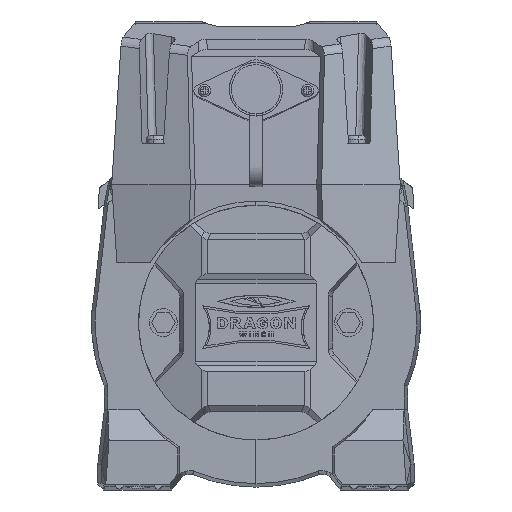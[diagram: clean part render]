
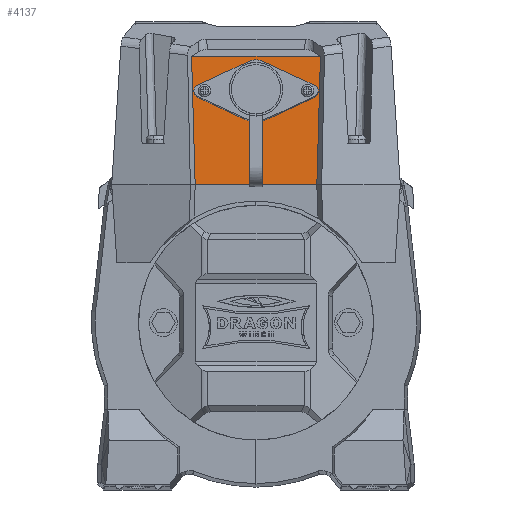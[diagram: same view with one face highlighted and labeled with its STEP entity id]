
A CAD part, left-side view. The second image highlights one B-rep face of the part: STEP entity #4137.
In plain terms, the highlighted free-form (B-spline) face has degree [1, 1] with [2, 2] control points.
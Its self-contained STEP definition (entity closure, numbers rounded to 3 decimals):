
#284=B_SPLINE_SURFACE_WITH_KNOTS('',1,1,((#49377,#49378),(#49379,#49380)),
 .UNSPECIFIED.,.F.,.F.,.F.,(2,2),(2,2),(0.,79.064),(92.874,
163.748),.UNSPECIFIED.);
#1614=B_SPLINE_CURVE_WITH_KNOTS('',1,(#52014,#52015),.UNSPECIFIED.,.F.,
 .F.,(2,2),(-157.867,-98.755),.UNSPECIFIED.);
#1623=B_SPLINE_CURVE_WITH_KNOTS('',3,(#52034,#52035,#52036,#52037),
 .UNSPECIFIED.,.F.,.F.,(4,4),(0.623,62.937),
 .UNSPECIFIED.);
#1624=B_SPLINE_CURVE_WITH_KNOTS('',3,(#52038,#52039,#52040,#52041),
 .UNSPECIFIED.,.F.,.F.,(4,4),(0.,62.314),.UNSPECIFIED.);
#1626=B_SPLINE_CURVE_WITH_KNOTS('',1,(#52044,#52045),.UNSPECIFIED.,.F.,
 .F.,(2,2),(-103.175,-40.573),.UNSPECIFIED.);
#4137=ADVANCED_FACE('',(#6316),#284,.T.);
#6316=FACE_OUTER_BOUND('',#8535,.T.);
#8535=EDGE_LOOP('',(#13334,#13335,#13336,#13337));
#13334=ORIENTED_EDGE('',*,*,#23143,.T.);
#13335=ORIENTED_EDGE('',*,*,#23145,.T.);
#13336=ORIENTED_EDGE('',*,*,#23142,.T.);
#13337=ORIENTED_EDGE('',*,*,#23133,.T.);
#23133=EDGE_CURVE('',#31307,#31314,#1614,.T.);
#23142=EDGE_CURVE('',#31315,#31307,#1623,.T.);
#23143=EDGE_CURVE('',#31314,#31316,#1624,.T.);
#23145=EDGE_CURVE('',#31316,#31315,#1626,.T.);
#31307=VERTEX_POINT('',#50988);
#31314=VERTEX_POINT('',#50995);
#31315=VERTEX_POINT('',#50996);
#31316=VERTEX_POINT('',#50997);
#49377=CARTESIAN_POINT('',(-159.112,38.663,148.338));
#49378=CARTESIAN_POINT('',(-159.112,109.537,148.338));
#49379=CARTESIAN_POINT('',(-154.974,42.801,227.293));
#49380=CARTESIAN_POINT('',(-154.974,105.399,227.293));
#50988=CARTESIAN_POINT('',(-159.112,103.656,148.338));
#50995=CARTESIAN_POINT('',(-159.112,44.544,148.338));
#50996=CARTESIAN_POINT('',(-155.852,105.401,210.542));
#50997=CARTESIAN_POINT('',(-155.852,42.799,210.542));
#52014=CARTESIAN_POINT('',(-159.112,103.656,148.338));
#52015=CARTESIAN_POINT('',(-159.112,44.544,148.338));
#52034=CARTESIAN_POINT('',(-155.852,105.401,210.542));
#52035=CARTESIAN_POINT('',(-156.938,104.819,189.807));
#52036=CARTESIAN_POINT('',(-158.025,104.238,169.073));
#52037=CARTESIAN_POINT('',(-159.112,103.656,148.338));
#52038=CARTESIAN_POINT('',(-159.112,44.544,148.338));
#52039=CARTESIAN_POINT('',(-158.025,43.963,169.073));
#52040=CARTESIAN_POINT('',(-156.938,43.381,189.807));
#52041=CARTESIAN_POINT('',(-155.852,42.799,210.542));
#52044=CARTESIAN_POINT('',(-155.852,42.799,210.542));
#52045=CARTESIAN_POINT('',(-155.852,105.401,210.542));
